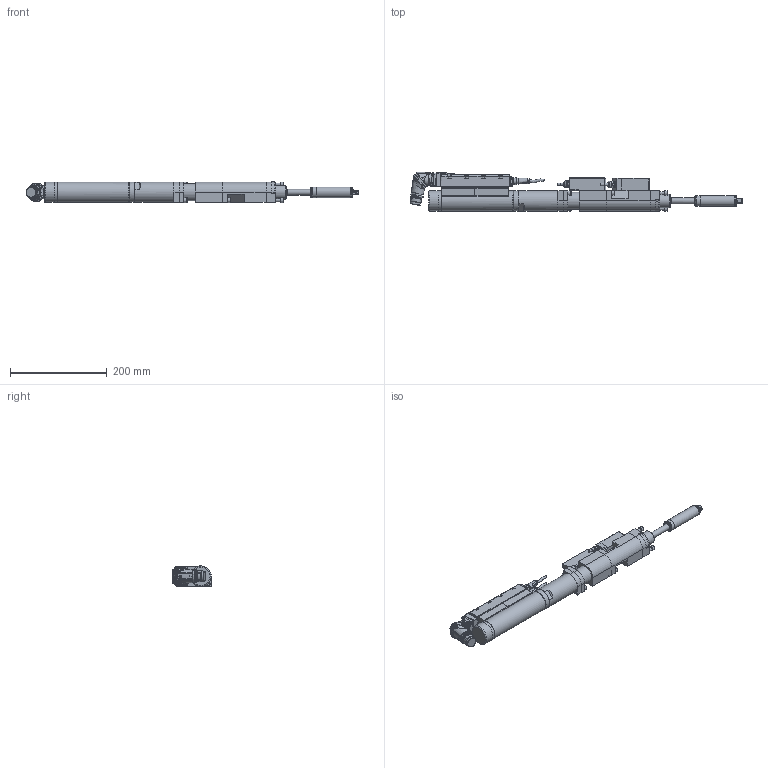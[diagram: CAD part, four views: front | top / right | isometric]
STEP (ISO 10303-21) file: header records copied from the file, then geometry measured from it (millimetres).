
FILE_DESCRIPTION (( 'STEP AP214' ), '1' );
FILE_NAME ('70082453_ESX103DRX40DWAX40AZX150.STEP', '2016-11-14T11:49:02', ( 'admin' ), ( '' ), 'SwSTEP 2.0', 'SolidWorks 2014', '' );
FILE_SCHEMA (( 'AUTOMOTIVE_DESIGN' ));
Length unit declared in the file: millimetre
Products named in the file (12): 70082320; 70082300_ESX103_Standard_Winkel_2_Aufnehmer; 70082293_2; 70057493_Standard_winkel; 70057493_4; 70057493_3; 70057493_2; 70082300; 70082453_ESX103DRX40DWAX40AZX150; 7002230_3; 70082370; 70082350
Assembly tree (12 placements, depth 4):
  70082453_ESX103DRX40DWAX40AZX150
    70082300_ESX103_Standard_Winkel_2_Aufnehmer
      70082300
      70057493_Standard_winkel
        70057493_2
        70057493_3
        70057493_4
      70082293_2  x2
    70082320
    70082350
    70082370
    7002230_3
Bounding box: 687.96 x 82.03 x 43.85 mm (x, y, z)
Volume: 1120652.4 mm3; surface area: 171115 mm2
Topology: 14 solids, 17 shells, 3012 faces, 7863 edges, 5073 vertices
Faces by surface type: plane 1482, cylinder 816, cone 363, bspline 270, torus 75, sphere 6
Full cylindrical faces by diameter (mm): 0.5 x14, 0.57 x14, 2 x3, 2.5 x6, 3 x6, 3.5 x1, 4.2 x1, 4.7 x1, 4.9 x6, 5 x10, 5.5 x12, 6 x11, 6.5 x1, 8.459 x2, 8.5 x1, 8.8 x1, 10 x8, 11.08 x3, 11.2 x1, 11.43 x1, 12.1 x1, 12.3 x2, 12.5 x2, 14 x4, 14.5 x2, 16 x2, 17.4 x1, 18 x1, 20 x1, 20.2 x1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
Entity records: 101348 total; most frequent: CARTESIAN_POINT 32543, ORIENTED_EDGE 14258, DIRECTION 12593, EDGE_CURVE 7129, VERTEX_POINT 4759, AXIS2_PLACEMENT_3D 4651, EDGE_LOOP 3380, VECTOR 3291
